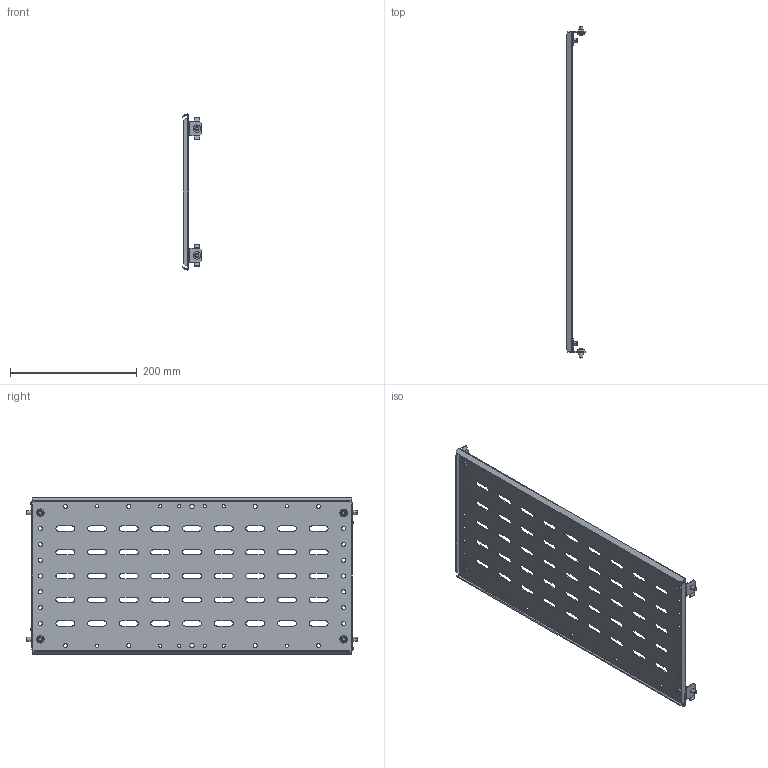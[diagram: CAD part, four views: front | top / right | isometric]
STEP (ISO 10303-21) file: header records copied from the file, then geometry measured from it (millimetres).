
FILE_DESCRIPTION (( 'STEP AP214' ), '1' );
FILE_NAME ('FO-00-SWF-025-060 Ïåðåãîðîäêà ñåêöèîíèðîâàíèÿ çàäíÿÿ 250õ600 ìì.STEP', '2025-08-12T08:48:05', ( '' ), ( '' ), 'SwSTEP 2.0', 'SolidWorks 2023', '' );
FILE_SCHEMA (( 'AUTOMOTIVE_DESIGN' ));
Length unit declared in the file: millimetre
Products named in the file (1): FO-00-SWF-025-060 Перегородка секционирования задняя 250х600 мм
Bounding box: 30.52 x 524 x 247.66 mm (x, y, z)
Volume: 200258.2 mm3; surface area: 266957 mm2
Topology: 1 solids, 5 shells, 689 faces, 1909 edges, 1250 vertices
Faces by surface type: cylinder 383, plane 250, torus 24, cone 24, sphere 8
Entity records: 22708 total; most frequent: CARTESIAN_POINT 4117, DIRECTION 4003, ORIENTED_EDGE 3818, EDGE_CURVE 1909, AXIS2_PLACEMENT_3D 1472, VERTEX_POINT 1250, VECTOR 1059, LINE 1059
